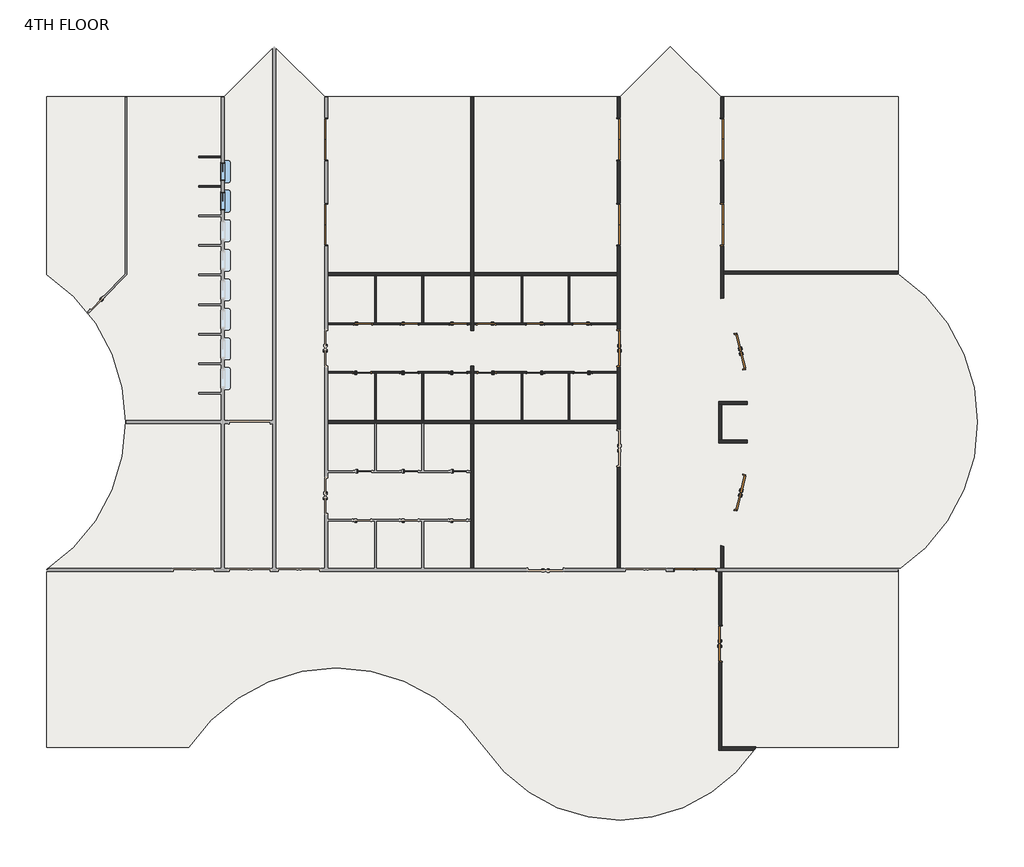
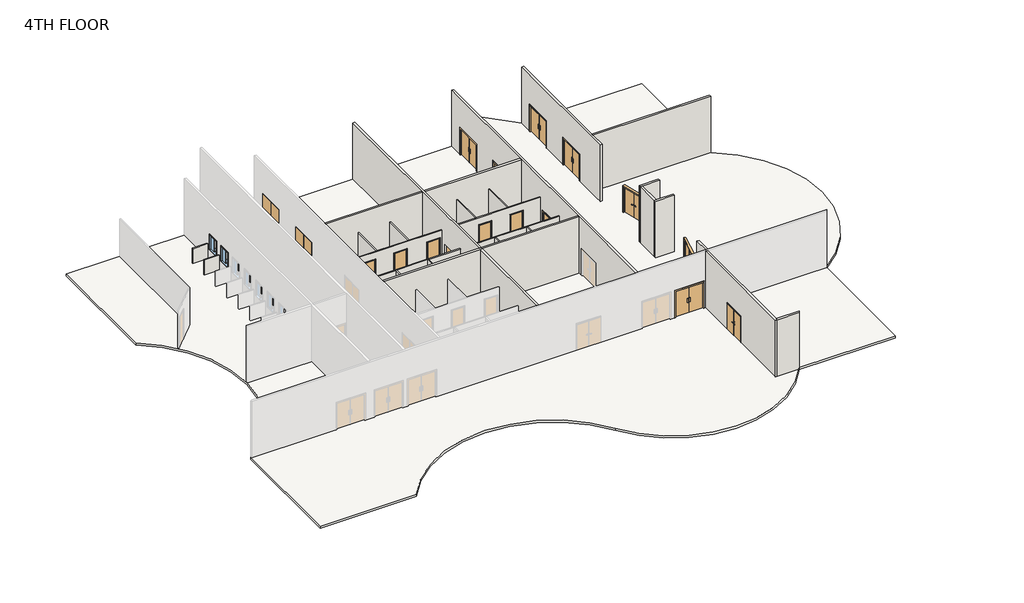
# One storey, part 2 of 2: 26 walls, 23 doors, 2 windows, 1 slab.
"""IFC4 building model written with IfcOpenShell, lengths in millimetres."""

from ifc_helpers import new_model, si_unit, point, frame, frame_2d, origin, place, context, project, spatial, polyline, circle_curve, trimmed, segment, composite_curve, outline, extrude, faceted_brep, transform, mapped, element, save
from ifc_brep_helpers import plane_surface, cylinder_surface, advanced_brep
from components import door_2f250f70, door_df8e76c5, door_0b13e4d9, door_b3a27a16, door_979b1b8c, door_f8b587be, pass_thru_4x3_19d81059

model = new_model("IFC4")

# Units and contexts
model_context = context("Model", 3, world=origin())
ifc_project = project(units=[si_unit("LENGTHUNIT", "METRE", prefix="MILLI")], contexts=[model_context])

# Site, building, storey
site = spatial("IfcSite", under=ifc_project)
building = spatial("IfcBuilding", under=site)
storey = spatial("IfcBuildingStorey", under=building, Name="4TH FLOOR", Elevation=18288.0)

# Doors
placement = place(None, origin())
door_shape = door_2f250f70(model_context)
element("IfcDoor", 1, ObjectType="Door-Passage-Double-Flush : 72\" x 82\"", at=placement, inside=storey, context=model_context, shape_type="MappedRepresentation", body=[
    mapped(door_shape, transform((35885.2621514, 20561.4429091, 18288.0), x_axis=(0.23975975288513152, -0.9708322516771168, 0.0), y_axis=(0.9708322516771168, 0.23975975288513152, 0.0), z_axis=(0.0, 0.0, 1.0))),
])
element("IfcDoor", 2, ObjectType="Door-Passage-Double-Flush : 72\" x 82\"", at=placement, inside=storey, context=model_context, shape_type="MappedRepresentation", body=[
    mapped(door_shape, transform((34887.5089577, 5494.3375, 18288.0), x_axis=(0.0, 1.0, 0.0), y_axis=(-1.0, 0.0, 0.0), z_axis=(0.0, 0.0, 1.0))),
])
door_2_shape = door_df8e76c5(model_context)
element("IfcDoor", 3, ObjectType="Door-Passage-Double-Flush : 72\" x 82\"", at=placement, inside=storey, context=model_context, shape_type="MappedRepresentation", body=[
    mapped(door_2_shape, transform((35886.7385063, 13277.3403388, 18288.0), x_axis=(0.23936619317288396, 0.9709293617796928, 0.0), y_axis=(-0.9709293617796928, 0.23936619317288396, 0.0), z_axis=(0.0, 0.0, 1.0))),
])
element("IfcDoor", 4, ObjectType="Door-Passage-Double-Flush : 72\" x 82\"", at=placement, inside=storey, context=model_context, shape_type="MappedRepresentation", body=[
    mapped(door_2_shape, transform((29628.0650257, 20729.575, 18288.0), x_axis=(0.0, 1.0, 0.0), y_axis=(-1.0, 0.0, 0.0), z_axis=(0.0, 0.0, 1.0))),
])
door_3_shape = door_0b13e4d9(model_context)
element("IfcDoor", 5, ObjectType="Door-Passage-Double-Flush-Dbl_Acting : 84\" x 84\"", at=placement, inside=storey, context=model_context, shape_type="MappedRepresentation", body=[
    mapped(door_3_shape, transform((33564.0300515, 9293.225, 18288.0), x_axis=(-1.0, 0.0, 0.0), y_axis=(0.0, -1.0, 0.0), z_axis=(0.0, 0.0, 1.0))),
])
element("IfcDoor", 6, ObjectType="Door-Passage-Double-Flush-Dbl_Acting : 84\" x 84\"", at=placement, inside=storey, context=model_context, shape_type="MappedRepresentation", body=[
    mapped(door_3_shape, transform((29628.0650257, 31499.175, 18288.0), x_axis=(0.0, 1.0, 0.0), y_axis=(-1.0, 0.0, 0.0), z_axis=(0.0, 0.0, 1.0))),
])
element("IfcDoor", 7, ObjectType="Door-Passage-Double-Flush-Dbl_Acting : 84\" x 84\"", at=placement, inside=storey, context=model_context, shape_type="MappedRepresentation", body=[
    mapped(door_3_shape, transform((29628.0650257, 27101.8, 18288.0), x_axis=(0.0, 1.0, 0.0), y_axis=(-1.0, 0.0, 0.0), z_axis=(0.0, 0.0, 1.0))),
])
door_4_shape = door_b3a27a16(model_context)
element("IfcDoor", 8, ObjectType="Door-Passage-Double-Flush-Dbl_Acting : 84\" x 84\"", at=placement, inside=storey, context=model_context, shape_type="MappedRepresentation", body=[
    mapped(door_4_shape, transform((14556.3400257, 31499.175, 18288.0), x_axis=(0.0, 1.0, 0.0), y_axis=(-1.0, 0.0, 0.0), z_axis=(0.0, 0.0, 1.0))),
])
element("IfcDoor", 9, ObjectType="Door-Passage-Double-Flush-Dbl_Acting : 84\" x 84\"", at=placement, inside=storey, context=model_context, shape_type="MappedRepresentation", body=[
    mapped(door_4_shape, transform((14556.3400257, 27101.8, 18288.0), x_axis=(0.0, 1.0, 0.0), y_axis=(-1.0, 0.0, 0.0), z_axis=(0.0, 0.0, 1.0))),
])
element("IfcDoor", 10, ObjectType="Door-Passage-Double-Flush-Dbl_Acting : 84\" x 84\"", at=placement, inside=storey, context=model_context, shape_type="MappedRepresentation", body=[
    mapped(door_4_shape, transform((34956.2675515, 31499.175, 18288.0), x_axis=(0.0, -1.0, 0.0), y_axis=(1.0, 0.0, 0.0), z_axis=(0.0, 0.0, 1.0))),
])
element("IfcDoor", 11, ObjectType="Door-Passage-Double-Flush-Dbl_Acting : 84\" x 84\"", at=placement, inside=storey, context=model_context, shape_type="MappedRepresentation", body=[
    mapped(door_4_shape, transform((34956.2675515, 27101.8, 18288.0), x_axis=(0.0, -1.0, 0.0), y_axis=(1.0, 0.0, 0.0), z_axis=(0.0, 0.0, 1.0))),
])
door_5_shape = door_979b1b8c(model_context)
element("IfcDoor", 12, ObjectType="Door-Passage-Single-Flush : 36\" x 96\"", at=placement, inside=storey, context=model_context, shape_type="MappedRepresentation", body=[
    mapped(door_5_shape, transform((16456.5775257, 21977.35, 18288.0), x_axis=(1.0, 0.0, 0.0), y_axis=(0.0, 1.0, 0.0), z_axis=(0.0, 0.0, 1.0))),
])
element("IfcDoor", 13, ObjectType="Door-Passage-Single-Flush : 36\" x 96\"", at=placement, inside=storey, context=model_context, shape_type="MappedRepresentation", body=[
    mapped(door_5_shape, transform((18855.2900257, 21977.35, 18288.0), x_axis=(1.0, 0.0, 0.0), y_axis=(0.0, 1.0, 0.0), z_axis=(0.0, 0.0, 1.0))),
])
element("IfcDoor", 14, ObjectType="Door-Passage-Single-Flush : 36\" x 96\"", at=placement, inside=storey, context=model_context, shape_type="MappedRepresentation", body=[
    mapped(door_5_shape, transform((21373.0650257, 21977.35, 18288.0), x_axis=(1.0, 0.0, 0.0), y_axis=(0.0, 1.0, 0.0), z_axis=(0.0, 0.0, 1.0))),
])
element("IfcDoor", 15, ObjectType="Door-Passage-Single-Flush : 36\" x 96\"", at=placement, inside=storey, context=model_context, shape_type="MappedRepresentation", body=[
    mapped(door_5_shape, transform((27778.6275257, 19481.8, 18288.0), x_axis=(-1.0, 0.0, 0.0), y_axis=(0.0, -1.0, 0.0), z_axis=(0.0, 0.0, 1.0))),
])
element("IfcDoor", 16, ObjectType="Door-Passage-Single-Flush : 36\" x 96\"", at=placement, inside=storey, context=model_context, shape_type="MappedRepresentation", body=[
    mapped(door_5_shape, transform((25348.1650257, 19481.8, 18288.0), x_axis=(-1.0, 0.0, 0.0), y_axis=(0.0, -1.0, 0.0), z_axis=(0.0, 0.0, 1.0))),
])
element("IfcDoor", 17, ObjectType="Door-Passage-Single-Flush : 36\" x 96\"", at=placement, inside=storey, context=model_context, shape_type="MappedRepresentation", body=[
    mapped(door_5_shape, transform((22830.3900257, 19481.8, 18288.0), x_axis=(-1.0, 0.0, 0.0), y_axis=(0.0, -1.0, 0.0), z_axis=(0.0, 0.0, 1.0))),
])
door_6_shape = door_f8b587be(model_context)
element("IfcDoor", 18, ObjectType="Door-Passage-Single-Flush : 36\" x 96\"", at=placement, inside=storey, context=model_context, shape_type="MappedRepresentation", body=[
    mapped(door_6_shape, transform((16405.7775257, 19481.8, 18288.0), x_axis=(1.0, 0.0, 0.0), y_axis=(0.0, 1.0, 0.0), z_axis=(0.0, 0.0, 1.0))),
])
element("IfcDoor", 19, ObjectType="Door-Passage-Single-Flush : 36\" x 96\"", at=placement, inside=storey, context=model_context, shape_type="MappedRepresentation", body=[
    mapped(door_6_shape, transform((18836.2400257, 19481.8, 18288.0), x_axis=(1.0, 0.0, 0.0), y_axis=(0.0, 1.0, 0.0), z_axis=(0.0, 0.0, 1.0))),
])
element("IfcDoor", 20, ObjectType="Door-Passage-Single-Flush : 36\" x 96\"", at=placement, inside=storey, context=model_context, shape_type="MappedRepresentation", body=[
    mapped(door_6_shape, transform((21354.0150257, 19481.8, 18288.0), x_axis=(1.0, 0.0, 0.0), y_axis=(0.0, 1.0, 0.0), z_axis=(0.0, 0.0, 1.0))),
])
element("IfcDoor", 21, ObjectType="Door-Passage-Single-Flush : 36\" x 96\"", at=placement, inside=storey, context=model_context, shape_type="MappedRepresentation", body=[
    mapped(door_6_shape, transform((27727.8275257, 21977.35, 18288.0), x_axis=(-1.0, 0.0, 0.0), y_axis=(0.0, -1.0, 0.0), z_axis=(0.0, 0.0, 1.0))),
])
element("IfcDoor", 22, ObjectType="Door-Passage-Single-Flush : 36\" x 96\"", at=placement, inside=storey, context=model_context, shape_type="MappedRepresentation", body=[
    mapped(door_6_shape, transform((25329.1150257, 21977.35, 18288.0), x_axis=(-1.0, 0.0, 0.0), y_axis=(0.0, -1.0, 0.0), z_axis=(0.0, 0.0, 1.0))),
])
element("IfcDoor", 23, ObjectType="Door-Passage-Single-Flush : 36\" x 96\"", at=placement, inside=storey, context=model_context, shape_type="MappedRepresentation", body=[
    mapped(door_6_shape, transform((22811.3400257, 21977.35, 18288.0), x_axis=(-1.0, 0.0, 0.0), y_axis=(0.0, -1.0, 0.0), z_axis=(0.0, 0.0, 1.0))),
])

# Slab
element("IfcSlab", 24, ObjectType="ARCHITECTURAL FINISH FLOOR", at=placement, inside=storey, context=model_context, shape_type="SweptSolid", body=[
    extrude(outline(composite_curve([segment(polyline([(9294.3144878, 33696.275), (11885.8887629, 36287.8492751), (14477.463038, 33696.275), (29706.9420135, 33696.275), (32298.5162886, 36287.8492751), (34890.0905637, 33696.275), (44041.5300515, 33696.275), (44041.5300515, 24546.3877275)]), True, "CONTINUOUS"), segment(trimmed(circle_curve(frame_2d((38974.293871, 16919.575)), 9156.7), [point((44041.5300515, 24546.3877275))], [point((44041.5300515, 9292.7622725))], False, "CARTESIAN"), True, "CONTINUOUS"), segment(polyline([(44041.5300515, 9292.7622725), (44041.5300515, 142.875), (36720.4425102, 142.875)]), True, "CONTINUOUS"), segment(trimmed(circle_curve(frame_2d((29712.2025257, 4799.7966199)), 8414.4130309), [point((36720.4425102, 142.875))], [point((22700.1916667, 148.5548109))], False, "CARTESIAN"), True, "CONTINUOUS"), segment(trimmed(circle_curve(frame_2d((15090.775, -4898.9611805)), 9131.3), [point((22700.1916667, 148.5548109))], [point((7477.593824, 142.875))], True, "CARTESIAN"), True, "CONTINUOUS"), segment(polyline([(7477.593824, 142.875), (142.875, 142.875), (142.875, 9306.393824)]), True, "CONTINUOUS"), segment(trimmed(circle_curve(frame_2d((-4898.9611805, 16919.575)), 9131.3), [point((142.875, 9306.393824))], [point((142.875, 24532.756176))], True, "CARTESIAN"), True, "CONTINUOUS"), segment(polyline([(142.875, 24532.756176), (142.875, 33696.275), (9294.3144878, 33696.275)]), True, "CONTINUOUS")], self_intersect=False)), frame((0.0, 0.0, 18135.6), z_axis=(0.0, 0.0, 1.0), x_axis=(1.0, 0.0, 0.0)), (0.0, 0.0, 1.0), 171.45),
])

# Walls
element("IfcWall", 25, ObjectType="SYR_INT_ONE_HOUR", at=placement, inside=storey, context=model_context, shape_type="SweptSolid", body=[
    extrude(outline(polyline([(17066.1775257, 22023.3875), (17066.1775257, 24461.7875), (17145.5525257, 24461.7875), (17145.5525257, 22023.3875), (17066.1775257, 22023.3875)])), frame((0.0, 0.0, 18288.0), z_axis=(0.0, 0.0, 1.0), x_axis=(1.0, 0.0, 0.0)), (0.0, 0.0, 1.0), 3048.0),
])
element("IfcWall", 26, ObjectType="SYR_INT_ONE_HOUR", at=placement, inside=storey, context=model_context, shape_type="SweptSolid", body=[
    extrude(outline(polyline([(19576.0150257, 19435.7625), (19576.0150257, 16997.3625), (19496.6400257, 16997.3625), (19496.6400257, 19435.7625), (19576.0150257, 19435.7625)])), frame((0.0, 0.0, 18288.0), z_axis=(0.0, 0.0, 1.0), x_axis=(1.0, 0.0, 0.0)), (0.0, 0.0, 1.0), 3048.0),
])
element("IfcWall", 27, ObjectType="SYR_INT_ONE_HOUR", at=placement, inside=storey, context=model_context, shape_type="Brep", body=[
    faceted_brep([(14627.7775257, 22023.3875, 21336.0), (17066.1775257, 22023.3875, 21336.0), (17145.5525257, 22023.3875, 21336.0), (19496.6400257, 22023.3875, 21336.0), (19576.0150257, 22023.3875, 21336.0), (22014.4150257, 22023.3875, 21336.0), (22014.4150257, 22023.3875, 18288.0), (21862.0150257, 22023.3875, 18288.0), (21862.0150257, 22023.3875, 20758.15), (20884.1150257, 22023.3875, 20758.15), (20884.1150257, 22023.3875, 18288.0), (19576.0150257, 22023.3875, 18288.0), (19496.6400257, 22023.3875, 18288.0), (19344.2400257, 22023.3875, 18288.0), (19344.2400257, 22023.3875, 20758.15), (18366.3400257, 22023.3875, 20758.15), (18366.3400257, 22023.3875, 18288.0), (17145.5525257, 22023.3875, 18288.0), (17066.1775257, 22023.3875, 18288.0), (16945.5275257, 22023.3875, 18288.0), (16945.5275257, 22023.3875, 20758.15), (15967.6275257, 22023.3875, 20758.15), (15967.6275257, 22023.3875, 18288.0), (14627.7775257, 22023.3875, 18288.0), (22014.4150257, 21944.0125, 21336.0), (14627.7775257, 21944.0125, 21336.0), (14627.7775257, 21944.0125, 18288.0), (15967.6275257, 21944.0125, 18288.0), (15967.6275257, 21944.0125, 20758.15), (16945.5275257, 21944.0125, 20758.15), (16945.5275257, 21944.0125, 18288.0), (18366.3400257, 21944.0125, 18288.0), (18366.3400257, 21944.0125, 20758.15), (19344.2400257, 21944.0125, 20758.15), (19344.2400257, 21944.0125, 18288.0), (20884.1150257, 21944.0125, 18288.0), (20884.1150257, 21944.0125, 20758.15), (21862.0150257, 21944.0125, 20758.15), (21862.0150257, 21944.0125, 18288.0), (22014.4150257, 21944.0125, 18288.0)], [[[0, 1, 2, 3, 4, 5, 6, 7, 8, 9, 10, 11, 12, 13, 14, 15, 16, 17, 18, 19, 20, 21, 22, 23]], [[24, 25, 26, 27, 28, 29, 30, 31, 32, 33, 34, 35, 36, 37, 38, 39]], [[23, 22, 27, 26]], [[30, 19, 18, 17, 16, 31]], [[34, 13, 12, 11, 10, 35]], [[6, 39, 38, 7]], [[5, 4, 3, 2, 1, 0, 25, 24]], [[29, 20, 19, 30]], [[20, 29, 28, 21]], [[21, 28, 27, 22]], [[14, 13, 34, 33]], [[15, 14, 33, 32]], [[16, 15, 32, 31]], [[37, 8, 7, 38]], [[8, 37, 36, 9]], [[9, 36, 35, 10]], [[0, 23, 26, 25]], [[6, 5, 24, 39]]]),
])
element("IfcWall", 28, ObjectType="SYR_INT_ONE_HOUR", at=placement, inside=storey, context=model_context, shape_type="Brep", body=[
    faceted_brep([(14627.7775257, 19515.1375, 21336.0), (22014.4150257, 19515.1375, 21336.0), (22014.4150257, 19515.1375, 18288.0), (21842.9650257, 19515.1375, 18288.0), (21842.9650257, 19515.1375, 20758.15), (20865.0650257, 19515.1375, 20758.15), (20865.0650257, 19515.1375, 18288.0), (19325.1900257, 19515.1375, 18288.0), (19325.1900257, 19515.1375, 20758.15), (18347.2900257, 19515.1375, 20758.15), (18347.2900257, 19515.1375, 18288.0), (16894.7275257, 19515.1375, 18288.0), (16894.7275257, 19515.1375, 20758.15), (15916.8275257, 19515.1375, 20758.15), (15916.8275257, 19515.1375, 18288.0), (14627.7775257, 19515.1375, 18288.0), (22014.4150257, 19435.7625, 21336.0), (19576.0150257, 19435.7625, 21336.0), (19496.6400257, 19435.7625, 21336.0), (17145.5525257, 19435.7625, 21336.0), (17066.1775257, 19435.7625, 21336.0), (14627.7775257, 19435.7625, 21336.0), (14627.7775257, 19435.7625, 18288.0), (15916.8275257, 19435.7625, 18288.0), (15916.8275257, 19435.7625, 20758.15), (16894.7275257, 19435.7625, 20758.15), (16894.7275257, 19435.7625, 18288.0), (17066.1775257, 19435.7625, 18288.0), (17145.5525257, 19435.7625, 18288.0), (18347.2900257, 19435.7625, 18288.0), (18347.2900257, 19435.7625, 20758.15), (19325.1900257, 19435.7625, 20758.15), (19325.1900257, 19435.7625, 18288.0), (19496.6400257, 19435.7625, 18288.0), (19576.0150257, 19435.7625, 18288.0), (20865.0650257, 19435.7625, 18288.0), (20865.0650257, 19435.7625, 20758.15), (21842.9650257, 19435.7625, 20758.15), (21842.9650257, 19435.7625, 18288.0), (22014.4150257, 19435.7625, 18288.0)], [[[0, 1, 2, 3, 4, 5, 6, 7, 8, 9, 10, 11, 12, 13, 14, 15]], [[16, 17, 18, 19, 20, 21, 22, 23, 24, 25, 26, 27, 28, 29, 30, 31, 32, 33, 34, 35, 36, 37, 38, 39]], [[15, 14, 23, 22]], [[26, 11, 10, 29, 28, 27]], [[32, 7, 6, 35, 34, 33]], [[2, 39, 38, 3]], [[1, 0, 21, 20, 19, 18, 17, 16]], [[25, 12, 11, 26]], [[12, 25, 24, 13]], [[13, 24, 23, 14]], [[31, 8, 7, 32]], [[8, 31, 30, 9]], [[9, 30, 29, 10]], [[37, 4, 3, 38]], [[4, 37, 36, 5]], [[5, 36, 35, 6]], [[0, 15, 22, 21]], [[2, 1, 16, 39]]]),
])
element("IfcWall", 29, ObjectType="SYR_INT_ONE_HOUR", at=placement, inside=storey, context=model_context, shape_type="SweptSolid", body=[
    extrude(outline(polyline([(17066.1775257, 16997.3625), (17066.1775257, 19435.7625), (17145.5525257, 19435.7625), (17145.5525257, 16997.3625), (17066.1775257, 16997.3625)])), frame((0.0, 0.0, 18288.0), z_axis=(0.0, 0.0, 1.0), x_axis=(1.0, 0.0, 0.0)), (0.0, 0.0, 1.0), 3048.0),
])
element("IfcWall", 30, ObjectType="SYR_INT_ONE_HOUR", at=placement, inside=storey, context=model_context, shape_type="SweptSolid", body=[
    extrude(outline(polyline([(19576.0150257, 24461.7875), (19576.0150257, 22023.3875), (19496.6400257, 22023.3875), (19496.6400257, 24461.7875), (19576.0150257, 24461.7875)])), frame((0.0, 0.0, 18288.0), z_axis=(0.0, 0.0, 1.0), x_axis=(1.0, 0.0, 0.0)), (0.0, 0.0, 1.0), 3048.0),
])
element("IfcWall", 31, ObjectType="SYR_INT_ONE_HOUR", at=placement, inside=storey, context=model_context, shape_type="SweptSolid", body=[
    extrude(outline(polyline([(7979.2710938, 29111.575), (9144.0, 29111.575), (9144.0, 29032.2), (7979.2710938, 29032.2), (7979.2710938, 29111.575)])), frame((0.0, 0.0, 18288.0), z_axis=(0.0, 0.0, 1.0), x_axis=(1.0, 0.0, 0.0)), (0.0, 0.0, 1.0), 1219.2),
])
element("IfcWall", 32, ObjectType="SYR_INT_ONE_HOUR", at=placement, inside=storey, context=model_context, shape_type="SweptSolid", body=[
    extrude(outline(polyline([(7979.2710938, 30635.575), (9144.0, 30635.575), (9144.0, 30556.2), (7979.2710938, 30556.2), (7979.2710938, 30635.575)])), frame((0.0, 0.0, 18288.0), z_axis=(0.0, 0.0, 1.0), x_axis=(1.0, 0.0, 0.0)), (0.0, 0.0, 1.0), 1219.2),
])
element("IfcWall", 33, ObjectType="SYR_INT_ONE_HOUR", at=placement, inside=storey, context=model_context, shape_type="SweptSolid", body=[
    extrude(outline(polyline([(27038.8525257, 22023.3875), (27038.8525257, 24461.7875), (27118.2275257, 24461.7875), (27118.2275257, 22023.3875), (27038.8525257, 22023.3875)])), frame((0.0, 0.0, 18288.0), z_axis=(0.0, 0.0, 1.0), x_axis=(1.0, 0.0, 0.0)), (0.0, 0.0, 1.0), 3048.0),
])
element("IfcWall", 34, ObjectType="SYR_INT_ONE_HOUR", at=placement, inside=storey, context=model_context, shape_type="SweptSolid", body=[
    extrude(outline(polyline([(24687.7650257, 19435.7625), (24687.7650257, 16997.3625), (24608.3900257, 16997.3625), (24608.3900257, 19435.7625), (24687.7650257, 19435.7625)])), frame((0.0, 0.0, 18288.0), z_axis=(0.0, 0.0, 1.0), x_axis=(1.0, 0.0, 0.0)), (0.0, 0.0, 1.0), 3048.0),
])
element("IfcWall", 35, ObjectType="SYR_INT_ONE_HOUR", at=placement, inside=storey, context=model_context, shape_type="Brep", body=[
    faceted_brep([(29556.6275257, 21944.0125, 21336.0), (22169.9900257, 21944.0125, 21336.0), (22169.9900257, 21944.0125, 18288.0), (22322.3900257, 21944.0125, 18288.0), (22322.3900257, 21944.0125, 20758.15), (23300.2900257, 21944.0125, 20758.15), (23300.2900257, 21944.0125, 18288.0), (24840.1650257, 21944.0125, 18288.0), (24840.1650257, 21944.0125, 20758.15), (25818.0650257, 21944.0125, 20758.15), (25818.0650257, 21944.0125, 18288.0), (27238.8775257, 21944.0125, 18288.0), (27238.8775257, 21944.0125, 20758.15), (28216.7775257, 21944.0125, 20758.15), (28216.7775257, 21944.0125, 18288.0), (29556.6275257, 21944.0125, 18288.0), (22169.9900257, 22023.3875, 21336.0), (24608.3900257, 22023.3875, 21336.0), (24687.7650257, 22023.3875, 21336.0), (27038.8525257, 22023.3875, 21336.0), (27118.2275257, 22023.3875, 21336.0), (29556.6275257, 22023.3875, 21336.0), (29556.6275257, 22023.3875, 18288.0), (28216.7775257, 22023.3875, 18288.0), (28216.7775257, 22023.3875, 20758.15), (27238.8775257, 22023.3875, 20758.15), (27238.8775257, 22023.3875, 18288.0), (27118.2275257, 22023.3875, 18288.0), (27038.8525257, 22023.3875, 18288.0), (25818.0650257, 22023.3875, 18288.0), (25818.0650257, 22023.3875, 20758.15), (24840.1650257, 22023.3875, 20758.15), (24840.1650257, 22023.3875, 18288.0), (24687.7650257, 22023.3875, 18288.0), (24608.3900257, 22023.3875, 18288.0), (23300.2900257, 22023.3875, 18288.0), (23300.2900257, 22023.3875, 20758.15), (22322.3900257, 22023.3875, 20758.15), (22322.3900257, 22023.3875, 18288.0), (22169.9900257, 22023.3875, 18288.0)], [[[0, 1, 2, 3, 4, 5, 6, 7, 8, 9, 10, 11, 12, 13, 14, 15]], [[16, 17, 18, 19, 20, 21, 22, 23, 24, 25, 26, 27, 28, 29, 30, 31, 32, 33, 34, 35, 36, 37, 38, 39]], [[15, 14, 23, 22]], [[26, 11, 10, 29, 28, 27]], [[32, 7, 6, 35, 34, 33]], [[2, 39, 38, 3]], [[1, 0, 21, 20, 19, 18, 17, 16]], [[25, 12, 11, 26]], [[12, 25, 24, 13]], [[13, 24, 23, 14]], [[8, 7, 32, 31]], [[9, 8, 31, 30]], [[10, 9, 30, 29]], [[37, 4, 3, 38]], [[4, 37, 36, 5]], [[5, 36, 35, 6]], [[0, 15, 22, 21]], [[2, 1, 16, 39]]]),
])
element("IfcWall", 36, ObjectType="SYR_INT_ONE_HOUR", at=placement, inside=storey, context=model_context, shape_type="Brep", body=[
    faceted_brep([(29556.6275257, 19435.7625, 21336.0), (27118.2275257, 19435.7625, 21336.0), (27038.8525257, 19435.7625, 21336.0), (24687.7650257, 19435.7625, 21336.0), (24608.3900257, 19435.7625, 21336.0), (22169.9900257, 19435.7625, 21336.0), (22169.9900257, 19435.7625, 18288.0), (22341.4400257, 19435.7625, 18288.0), (22341.4400257, 19435.7625, 20758.15), (23319.3400257, 19435.7625, 20758.15), (23319.3400257, 19435.7625, 18288.0), (24608.3900257, 19435.7625, 18288.0), (24687.7650257, 19435.7625, 18288.0), (24859.2150257, 19435.7625, 18288.0), (24859.2150257, 19435.7625, 20758.15), (25837.1150257, 19435.7625, 20758.15), (25837.1150257, 19435.7625, 18288.0), (27038.8525257, 19435.7625, 18288.0), (27118.2275257, 19435.7625, 18288.0), (27289.6775257, 19435.7625, 18288.0), (27289.6775257, 19435.7625, 20758.15), (28267.5775257, 19435.7625, 20758.15), (28267.5775257, 19435.7625, 18288.0), (29556.6275257, 19435.7625, 18288.0), (22169.9900257, 19515.1375, 21336.0), (29556.6275257, 19515.1375, 21336.0), (29556.6275257, 19515.1375, 18288.0), (28267.5775257, 19515.1375, 18288.0), (28267.5775257, 19515.1375, 20758.15), (27289.6775257, 19515.1375, 20758.15), (27289.6775257, 19515.1375, 18288.0), (25837.1150257, 19515.1375, 18288.0), (25837.1150257, 19515.1375, 20758.15), (24859.2150257, 19515.1375, 20758.15), (24859.2150257, 19515.1375, 18288.0), (23319.3400257, 19515.1375, 18288.0), (23319.3400257, 19515.1375, 20758.15), (22341.4400257, 19515.1375, 20758.15), (22341.4400257, 19515.1375, 18288.0), (22169.9900257, 19515.1375, 18288.0)], [[[0, 1, 2, 3, 4, 5, 6, 7, 8, 9, 10, 11, 12, 13, 14, 15, 16, 17, 18, 19, 20, 21, 22, 23]], [[24, 25, 26, 27, 28, 29, 30, 31, 32, 33, 34, 35, 36, 37, 38, 39]], [[23, 22, 27, 26]], [[30, 19, 18, 17, 16, 31]], [[34, 13, 12, 11, 10, 35]], [[6, 39, 38, 7]], [[5, 4, 3, 2, 1, 0, 25, 24]], [[29, 20, 19, 30]], [[20, 29, 28, 21]], [[21, 28, 27, 22]], [[33, 14, 13, 34]], [[14, 33, 32, 15]], [[15, 32, 31, 16]], [[37, 8, 7, 38]], [[8, 37, 36, 9]], [[9, 36, 35, 10]], [[0, 23, 26, 25]], [[6, 5, 24, 39]]]),
])
element("IfcWall", 37, ObjectType="SYR_INT_ONE_HOUR", at=placement, inside=storey, context=model_context, shape_type="SweptSolid", body=[
    extrude(outline(polyline([(27038.8525257, 16997.3625), (27038.8525257, 19435.7625), (27118.2275257, 19435.7625), (27118.2275257, 16997.3625), (27038.8525257, 16997.3625)])), frame((0.0, 0.0, 18288.0), z_axis=(0.0, 0.0, 1.0), x_axis=(1.0, 0.0, 0.0)), (0.0, 0.0, 1.0), 3048.0),
])
element("IfcWall", 38, ObjectType="SYR_INT_ONE_HOUR", at=placement, inside=storey, context=model_context, shape_type="SweptSolid", body=[
    extrude(outline(polyline([(24687.7650257, 24461.7875), (24687.7650257, 22023.3875), (24608.3900257, 22023.3875), (24608.3900257, 24461.7875), (24687.7650257, 24461.7875)])), frame((0.0, 0.0, 18288.0), z_axis=(0.0, 0.0, 1.0), x_axis=(1.0, 0.0, 0.0)), (0.0, 0.0, 1.0), 3048.0),
])
element("IfcWall", 39, ObjectType="SYR_INT_TWO_HOUR", at=placement, inside=storey, context=model_context, shape_type="Brep", body=[
    faceted_brep([(34803.3714577, 0.0, 22860.0), (34803.3714577, 9221.7875, 22860.0), (34803.3714577, 9221.7875, 18288.0), (34803.3714577, 6459.5375, 18288.0), (34803.3714577, 6459.5375, 20472.4), (34803.3714577, 4529.1375, 20472.4), (34803.3714577, 4529.1375, 18288.0), (34803.3714577, 0.0, 18288.0), (34958.9464577, 9221.7875, 22860.0), (34958.9464577, 155.575, 22860.0), (34958.9464577, 0.0, 22860.0), (34958.9464577, 0.0, 18288.0), (34958.9464577, 155.575, 18288.0), (34958.9464577, 4529.1375, 18288.0), (34958.9464577, 4529.1375, 20472.4), (34958.9464577, 6459.5375, 20472.4), (34958.9464577, 6459.5375, 18288.0), (34958.9464577, 9221.7875, 18288.0)], [[[0, 1, 2, 3, 4, 5, 6, 7]], [[8, 9, 10, 11, 12, 13, 14, 15, 16, 17]], [[2, 17, 16, 3]], [[11, 7, 6, 13, 12]], [[1, 0, 10, 9, 8]], [[2, 1, 8, 17]], [[0, 7, 11, 10]], [[15, 4, 3, 16]], [[4, 15, 14, 5]], [[5, 14, 13, 6]]]),
])
element("IfcWall", 40, ObjectType="SYR_INT_TWO_HOUR", at=placement, inside=storey, context=model_context, shape_type="SweptSolid", body=[
    extrude(outline(composite_curve([segment(polyline([(36607.9065696, 0.0), (34958.9464577, 0.0), (34958.9464577, 155.575), (36713.6300515, 155.575)]), True, "CONTINUOUS"), segment(trimmed(circle_curve(frame_2d((29712.2025257, 4799.7966199)), 8401.7130309), [point((36713.6300515, 155.575))], [point((36607.9065696, 0.0))], False, "CARTESIAN"), True, "CONTINUOUS")], self_intersect=False)), frame((0.0, 0.0, 18288.0), z_axis=(0.0, 0.0, 1.0), x_axis=(1.0, 0.0, 0.0)), (0.0, 0.0, 1.0), 4572.0),
])
element("IfcWall", 41, ObjectType="SYR_INT_TWO_HOUR", at=placement, inside=storey, context=model_context, shape_type="Brep", body=[
    faceted_brep([(29556.6275257, 9377.3625, 22860.0), (29556.6275257, 16841.7875, 22860.0), (29556.6275257, 16997.3625, 22860.0), (29556.6275257, 24461.7875, 22860.0), (29556.6275257, 24617.3625, 22860.0), (29556.6275257, 33683.575, 22860.0), (29556.6275257, 33683.575, 18288.0), (29556.6275257, 32616.775, 18288.0), (29556.6275257, 32616.775, 20523.2), (29556.6275257, 30381.575, 20523.2), (29556.6275257, 30381.575, 18288.0), (29556.6275257, 28219.4, 18288.0), (29556.6275257, 28219.4, 20523.2), (29556.6275257, 25984.2, 20523.2), (29556.6275257, 25984.2, 18288.0), (29556.6275257, 24617.3625, 18288.0), (29556.6275257, 24461.7875, 18288.0), (29556.6275257, 22023.3875, 18288.0), (29556.6275257, 21944.0125, 18288.0), (29556.6275257, 21694.775, 18288.0), (29556.6275257, 21694.775, 20472.4), (29556.6275257, 19764.375, 20472.4), (29556.6275257, 19764.375, 18288.0), (29556.6275257, 19515.1375, 18288.0), (29556.6275257, 19435.7625, 18288.0), (29556.6275257, 16997.3625, 18288.0), (29556.6275257, 16841.7875, 18288.0), (29556.6275257, 16536.9875, 18288.0), (29556.6275257, 16536.9875, 20472.4), (29556.6275257, 14606.5875, 20472.4), (29556.6275257, 14606.5875, 18288.0), (29556.6275257, 9377.3625, 18288.0), (29712.2025257, 33683.575, 22860.0), (29712.2025257, 9377.3625, 22860.0), (29712.2025257, 9377.3625, 18288.0), (29712.2025257, 14606.5875, 18288.0), (29712.2025257, 14606.5875, 20472.4), (29712.2025257, 16536.9875, 20472.4), (29712.2025257, 16536.9875, 18288.0), (29712.2025257, 19764.375, 18288.0), (29712.2025257, 19764.375, 20472.4), (29712.2025257, 21694.775, 20472.4), (29712.2025257, 21694.775, 18288.0), (29712.2025257, 25984.2, 18288.0), (29712.2025257, 25984.2, 20523.2), (29712.2025257, 28219.4, 20523.2), (29712.2025257, 28219.4, 18288.0), (29712.2025257, 30381.575, 18288.0), (29712.2025257, 30381.575, 20523.2), (29712.2025257, 32616.775, 20523.2), (29712.2025257, 32616.775, 18288.0), (29712.2025257, 33683.575, 18288.0)], [[[0, 1, 2, 3, 4, 5, 6, 7, 8, 9, 10, 11, 12, 13, 14, 15, 16, 17, 18, 19, 20, 21, 22, 23, 24, 25, 26, 27, 28, 29, 30, 31]], [[32, 33, 34, 35, 36, 37, 38, 39, 40, 41, 42, 43, 44, 45, 46, 47, 48, 49, 50, 51]], [[34, 31, 30, 35]], [[42, 19, 18, 17, 16, 15, 14, 43]], [[22, 39, 38, 27, 26, 25, 24, 23]], [[46, 11, 10, 47]], [[7, 6, 51, 50]], [[5, 4, 3, 2, 1, 0, 33, 32]], [[0, 31, 34, 33]], [[41, 20, 19, 42]], [[20, 41, 40, 21]], [[21, 40, 39, 22]], [[45, 12, 11, 46]], [[12, 45, 44, 13]], [[13, 44, 43, 14]], [[49, 8, 7, 50]], [[8, 49, 48, 9]], [[9, 48, 47, 10]], [[29, 36, 35, 30]], [[36, 29, 28, 37]], [[37, 28, 27, 38]], [[6, 5, 32, 51]]]),
])
element("IfcWall", 42, ObjectType="SYR_INT_TWO_HOUR", at=placement, inside=storey, context=model_context, shape_type="Brep", body=[
    faceted_brep([(34884.8300515, 23286.7810764, 22860.0), (34884.8300515, 33683.575, 22860.0), (34884.8300515, 33683.575, 18288.0), (34884.8300515, 32616.775, 18288.0), (34884.8300515, 32616.775, 20523.2), (34884.8300515, 30381.575, 20523.2), (34884.8300515, 30381.575, 18288.0), (34884.8300515, 28219.4, 18288.0), (34884.8300515, 28219.4, 20523.2), (34884.8300515, 25984.2, 20523.2), (34884.8300515, 25984.2, 18288.0), (34884.8300515, 23286.7810764, 18288.0), (35040.4050515, 33683.575, 22860.0), (35040.4050515, 24695.15, 22860.0), (35040.4050515, 24539.575, 22860.0), (35040.4050515, 23320.9573614, 22860.0), (35040.4050515, 23320.9573614, 18288.0), (35040.4050515, 24539.575, 18288.0), (35040.4050515, 24695.15, 18288.0), (35040.4050515, 25984.2, 18288.0), (35040.4050515, 25984.2, 20523.2), (35040.4050515, 28219.4, 20523.2), (35040.4050515, 28219.4, 18288.0), (35040.4050515, 30381.575, 18288.0), (35040.4050515, 30381.575, 20523.2), (35040.4050515, 32616.775, 20523.2), (35040.4050515, 32616.775, 18288.0), (35040.4050515, 33683.575, 18288.0)], [[[0, 1, 2, 3, 4, 5, 6, 7, 8, 9, 10, 11]], [[12, 13, 14, 15, 16, 17, 18, 19, 20, 21, 22, 23, 24, 25, 26, 27]], [[16, 11, 10, 19, 18, 17]], [[3, 2, 27, 26]], [[6, 23, 22, 7]], [[1, 0, 15, 14, 13, 12]], [[0, 11, 16, 15]], [[5, 24, 23, 6]], [[24, 5, 4, 25]], [[25, 4, 3, 26]], [[9, 20, 19, 10]], [[20, 9, 8, 21]], [[21, 8, 7, 22]], [[2, 1, 12, 27]]]),
])
element("IfcWall", 43, ObjectType="SYR_INT_TWO_HOUR", at=placement, inside=storey, context=model_context, shape_type="Brep", body=[
    faceted_brep([(14627.7775257, 16841.7875, 18288.0), (17066.1775257, 16841.7875, 18288.0), (17145.5525257, 16841.7875, 18288.0), (19496.6400257, 16841.7875, 18288.0), (19576.0150257, 16841.7875, 18288.0), (22014.4150257, 16841.7875, 18288.0), (22169.9900257, 16841.7875, 18288.0), (29556.6275257, 16841.7875, 18288.0), (29556.6275257, 16841.7875, 22860.0), (22169.9900257, 16841.7875, 22860.0), (22014.4150257, 16841.7875, 22860.0), (14627.7775257, 16841.7875, 22860.0), (14627.7775257, 16997.3625, 18288.0), (14627.7775257, 16997.3625, 22860.0), (22014.4150257, 16997.3625, 22860.0), (22169.9900257, 16997.3625, 22860.0), (29556.6275257, 16997.3625, 22860.0), (29556.6275257, 16997.3625, 18288.0), (27118.2275257, 16997.3625, 18288.0), (27038.8525257, 16997.3625, 18288.0), (24687.7650257, 16997.3625, 18288.0), (24608.3900257, 16997.3625, 18288.0), (22169.9900257, 16997.3625, 18288.0), (22014.4150257, 16997.3625, 18288.0), (19576.0150257, 16997.3625, 18288.0), (19496.6400257, 16997.3625, 18288.0), (17145.5525257, 16997.3625, 18288.0), (17066.1775257, 16997.3625, 18288.0)], [[[0, 1, 2, 3, 4, 5, 6, 7, 8, 9, 10, 11]], [[12, 13, 14, 15, 16, 17, 18, 19, 20, 21, 22, 23, 24, 25, 26, 27]], [[7, 6, 5, 4, 3, 2, 1, 0, 12, 27, 26, 25, 24, 23, 22, 21, 20, 19, 18, 17]], [[11, 10, 9, 8, 16, 15, 14, 13]], [[0, 11, 13, 12]], [[8, 7, 17, 16]]]),
])
element("IfcWall", 44, ObjectType="SYR_INT_TWO_HOUR", at=placement, inside=storey, context=model_context, shape_type="Brep", body=[
    faceted_brep([(22169.9900257, 9377.3625, 22860.0), (22169.9900257, 9377.3625, 18288.0), (22169.9900257, 16841.7875, 18288.0), (22169.9900257, 16841.7875, 22860.0), (22014.4150257, 9377.3625, 18288.0), (22014.4150257, 9377.3625, 22860.0), (22014.4150257, 16841.7875, 22860.0), (22014.4150257, 16841.7875, 18288.0), (22014.4150257, 14403.3875, 18288.0), (22014.4150257, 14324.0125, 18288.0), (22014.4150257, 11895.1375, 18288.0), (22014.4150257, 11815.7625, 18288.0)], [[[0, 1, 2, 3]], [[4, 5, 6, 7, 8, 9, 10, 11]], [[1, 4, 11, 10, 9, 8, 7, 2]], [[5, 0, 3, 6]], [[1, 0, 5, 4]], [[3, 2, 7, 6]]]),
    faceted_brep([(22169.9900257, 19815.175, 18288.0), (22169.9900257, 19815.175, 20421.6), (22169.9900257, 21643.975, 20421.6), (22169.9900257, 21643.975, 18288.0), (22169.9900257, 21944.0125, 18288.0), (22169.9900257, 22023.3875, 18288.0), (22169.9900257, 24461.7875, 18288.0), (22169.9900257, 24617.3625, 18288.0), (22169.9900257, 33683.575, 18288.0), (22169.9900257, 33683.575, 22860.0), (22169.9900257, 24617.3625, 22860.0), (22169.9900257, 24461.7875, 22860.0), (22169.9900257, 16997.3625, 22860.0), (22169.9900257, 16997.3625, 18288.0), (22169.9900257, 19435.7625, 18288.0), (22169.9900257, 19515.1375, 18288.0), (22014.4150257, 19815.175, 20421.6), (22014.4150257, 19815.175, 18288.0), (22014.4150257, 19515.1375, 18288.0), (22014.4150257, 19435.7625, 18288.0), (22014.4150257, 16997.3625, 18288.0), (22014.4150257, 16997.3625, 22860.0), (22014.4150257, 24461.7875, 22860.0), (22014.4150257, 24617.3625, 22860.0), (22014.4150257, 33683.575, 22860.0), (22014.4150257, 33683.575, 18288.0), (22014.4150257, 24617.3625, 18288.0), (22014.4150257, 24461.7875, 18288.0), (22014.4150257, 22023.3875, 18288.0), (22014.4150257, 21944.0125, 18288.0), (22014.4150257, 21643.975, 18288.0), (22014.4150257, 21643.975, 20421.6)], [[[0, 1, 2, 3, 4, 5, 6, 7, 8, 9, 10, 11, 12, 13, 14, 15]], [[16, 17, 18, 19, 20, 21, 22, 23, 24, 25, 26, 27, 28, 29, 30, 31]], [[17, 0, 15, 14, 13, 20, 19, 18]], [[3, 30, 29, 28, 27, 26, 25, 8, 7, 6, 5, 4]], [[9, 24, 23, 22, 21, 12, 11, 10]], [[13, 12, 21, 20]], [[17, 16, 1, 0]], [[31, 30, 3, 2]], [[16, 31, 2, 1]], [[9, 8, 25, 24]]]),
])
element("IfcWall", 45, ObjectType="SYR_INT_TWO_HOUR", at=placement, inside=storey, context=model_context, shape_type="Brep", body=[
    faceted_brep([(14627.7775257, 24461.7875, 22860.0), (14627.7775257, 24461.7875, 18288.0), (17066.1775257, 24461.7875, 18288.0), (17145.5525257, 24461.7875, 18288.0), (19496.6400257, 24461.7875, 18288.0), (19576.0150257, 24461.7875, 18288.0), (22014.4150257, 24461.7875, 18288.0), (22014.4150257, 24461.7875, 22860.0), (14627.7775257, 24617.3625, 18288.0), (14627.7775257, 24617.3625, 22860.0), (22014.4150257, 24617.3625, 22860.0), (22014.4150257, 24617.3625, 18288.0)], [[[0, 1, 2, 3, 4, 5, 6, 7]], [[8, 9, 10, 11]], [[1, 8, 11, 6, 5, 4, 3, 2]], [[9, 0, 7, 10]], [[1, 0, 9, 8]], [[7, 6, 11, 10]]]),
    faceted_brep([(29556.6275257, 24461.7875, 18288.0), (29556.6275257, 24461.7875, 22860.0), (22169.9900257, 24461.7875, 22860.0), (22169.9900257, 24461.7875, 18288.0), (24608.3900257, 24461.7875, 18288.0), (24687.7650257, 24461.7875, 18288.0), (27038.8525257, 24461.7875, 18288.0), (27118.2275257, 24461.7875, 18288.0), (29556.6275257, 24617.3625, 22860.0), (29556.6275257, 24617.3625, 18288.0), (22169.9900257, 24617.3625, 18288.0), (22169.9900257, 24617.3625, 22860.0)], [[[0, 1, 2, 3, 4, 5, 6, 7]], [[8, 9, 10, 11]], [[9, 0, 7, 6, 5, 4, 3, 10]], [[1, 8, 11, 2]], [[1, 0, 9, 8]], [[3, 2, 11, 10]]]),
])
element("IfcWall", 46, ObjectType="SYR_INT_TWO_HOUR", at=placement, inside=storey, context=model_context, shape_type="SweptSolid", body=[
    extrude(outline(polyline([(35040.4050515, 24695.15), (44028.8300515, 24695.15), (44028.8300515, 24539.575), (35040.4050515, 24539.575), (35040.4050515, 24695.15)])), frame((0.0, 0.0, 18288.0), z_axis=(0.0, 0.0, 1.0), x_axis=(1.0, 0.0, 0.0)), (0.0, 0.0, 1.0), 4572.0),
])
element("IfcWall", 47, ObjectType="SYR_INT_TWO_HOUR", at=placement, inside=storey, context=model_context, shape_type="SweptSolid", body=[
    extrude(outline(polyline([(34884.8300515, 9377.3625), (34884.8300515, 10546.0189236), (35040.4050515, 10511.8426386), (35040.4050515, 9377.3625), (34884.8300515, 9377.3625)])), frame((0.0, 0.0, 18288.0), z_axis=(0.0, 0.0, 1.0), x_axis=(1.0, 0.0, 0.0)), (0.0, 0.0, 1.0), 4572.0),
])
element("IfcWall", 48, ObjectType="SYR_INT_TWO_HOUR", at=placement, inside=storey, context=model_context, shape_type="AdvancedBrep", body=[
    advanced_brep(
    [(36260.4137436, 16002.0, 18288.0), (34939.3011452, 16002.0, 18288.0), (34783.7261452, 16002.0, 18288.0), (34783.7261452, 16002.0, 22860.0), (34939.3011452, 16002.0, 22860.0), (36260.4137436, 16002.0, 22860.0), (36250.2111967, 15846.425, 18288.0), (36250.2111967, 15846.425, 22860.0), (34783.7261452, 15846.425, 22860.0), (34783.7261452, 15846.425, 18288.0)],
    [
        (0, 1),
        (1, 2),
        (2, 3),
        (3, 4),
        (4, 5),
        (5, 0),
        (6, 7),
        (7, 8),
        (8, 9),
        (9, 6),
        (0, 6, circle_curve(frame((21125.7990959, 16916.4, 18288.0), z_axis=(0.0, 0.0, -1.0), x_axis=(1.0, 0.0, 0.0)), 15162.2125)),
        (9, 2),
        (3, 8),
        (7, 5, circle_curve(frame((21125.7990959, 16916.4, 22860.0), z_axis=(0.0, 0.0, 1.0), x_axis=(1.0, 0.0, 0.0)), 15162.2125)),
    ],
    [
        plane_surface(frame((36365.7990959, 16002.0, 18288.0), z_axis=(0.0, 1.0, 0.0), x_axis=(-1.0, 0.0, 0.0))),
        plane_surface(frame((36365.7990959, 15846.425, 18288.0), z_axis=(0.0, -1.0, 0.0), x_axis=(1.0, 0.0, 0.0))),
        plane_surface(frame((36333.467029, 16002.0, 18288.0), z_axis=(0.0, 0.0, -1.0), x_axis=(0.0, -1.0, 0.0))),
        plane_surface(frame((34861.5136452, 16002.0, 22860.0), z_axis=(0.0, 0.0, 1.0), x_axis=(0.0, -1.0, 0.0))),
        cylinder_surface(frame((21125.7990959, 16916.4, 18288.0), z_axis=(0.0, 0.0, -1.0), x_axis=(1.0, 0.0, 0.0)), 15162.2125),
        plane_surface(frame((34783.7261452, 17087.0102762, 18288.0), z_axis=(-1.0, 0.0, 0.0), x_axis=(0.0, -1.0, 0.0))),
    ],
    [
        (0, [[1, 2, 3, 4, 5, 6]]),
        (1, [[7, 8, 9, 10]]),
        (2, [[-2, -1, 11, -10, 12]]),
        (3, [[-5, -4, 13, -8, 14]]),
        (4, [[-6, -14, -7, -11]]),
        (5, [[-3, -12, -9, -13]]),
    ],
),
])
element("IfcWall", 49, ObjectType="SYR_INT_TWO_HOUR", at=placement, inside=storey, context=model_context, shape_type="AdvancedBrep", body=[
    advanced_brep(
    [(34783.7261452, 17830.8, 18288.0), (34939.3011452, 17830.8, 18288.0), (36260.4137436, 17830.8, 18288.0), (36260.4137436, 17830.8, 22860.0), (34939.3011452, 17830.8, 22860.0), (34783.7261452, 17830.8, 22860.0), (34783.7261452, 17986.375, 18288.0), (34783.7261452, 17986.375, 22860.0), (36250.2111967, 17986.375, 22860.0), (36250.2111967, 17986.375, 18288.0)],
    [
        (0, 1),
        (1, 2),
        (2, 3),
        (3, 4),
        (4, 5),
        (5, 0),
        (6, 7),
        (7, 8),
        (8, 9),
        (9, 6),
        (0, 6),
        (9, 2, circle_curve(frame((21125.7990959, 16916.4, 18288.0), z_axis=(0.0, 0.0, -1.0), x_axis=(1.0, 0.0, 0.0)), 15162.2125)),
        (3, 8, circle_curve(frame((21125.7990959, 16916.4, 22860.0), z_axis=(0.0, 0.0, 1.0), x_axis=(1.0, 0.0, 0.0)), 15162.2125)),
        (7, 5),
    ],
    [
        plane_surface(frame((34892.5990959, 17830.8, 18288.0), z_axis=(0.0, -1.0, 0.0), x_axis=(1.0, 0.0, 0.0))),
        plane_surface(frame((34892.5990959, 17986.375, 18288.0), z_axis=(0.0, 1.0, 0.0), x_axis=(-1.0, 0.0, 0.0))),
        plane_surface(frame((34861.5136452, 17830.8, 18288.0), z_axis=(0.0, 0.0, -1.0), x_axis=(0.0, 1.0, 0.0))),
        plane_surface(frame((36333.467029, 17830.8, 22860.0), z_axis=(0.0, 0.0, 1.0), x_axis=(0.0, 1.0, 0.0))),
        cylinder_surface(frame((21125.7990959, 16916.4, 18288.0), z_axis=(0.0, 0.0, -1.0), x_axis=(1.0, 0.0, 0.0)), 15162.2125),
        plane_surface(frame((34783.7261452, 17087.0102762, 18288.0), z_axis=(-1.0, 0.0, 0.0), x_axis=(0.0, -1.0, 0.0))),
    ],
    [
        (0, [[1, 2, 3, 4, 5, 6]]),
        (1, [[7, 8, 9, 10]]),
        (2, [[-2, -1, 11, -10, 12]]),
        (3, [[-5, -4, 13, -8, 14]]),
        (4, [[-3, -12, -9, -13]]),
        (5, [[-6, -14, -7, -11]]),
    ],
),
])
element("IfcWall", 50, ObjectType="SYR_INT_TWO_HOUR", at=placement, inside=storey, context=model_context, shape_type="SweptSolid", body=[
    extrude(outline(polyline([(34939.3011452, 17830.8), (34939.3011452, 16002.0), (34783.7261452, 16002.0), (34783.7261452, 17830.8), (34939.3011452, 17830.8)])), frame((0.0, 0.0, 18288.0), z_axis=(0.0, 0.0, 1.0), x_axis=(1.0, 0.0, 0.0)), (0.0, 0.0, 1.0), 4572.0),
])

# Windows
pass_thru_4x3_shape = pass_thru_4x3_19d81059(model_context)
element("IfcWindow", 51, ObjectType="Pass thru : 4x3", at=placement, inside=storey, context=model_context, shape_type="MappedRepresentation", body=[
    mapped(pass_thru_4x3_shape, transform((9221.7875, 28309.8875, 18288.0), x_axis=(0.0, 1.0, 0.0), y_axis=(-1.0, 0.0, 0.0), z_axis=(0.0, 0.0, 1.0))),
])
element("IfcWindow", 52, ObjectType="Pass thru : 4x3", at=placement, inside=storey, context=model_context, shape_type="MappedRepresentation", body=[
    mapped(pass_thru_4x3_shape, transform((9221.7875, 29833.8875, 18288.0), x_axis=(0.0, 1.0, 0.0), y_axis=(-1.0, 0.0, 0.0), z_axis=(0.0, 0.0, 1.0))),
])

save(model, "model.ifc")
